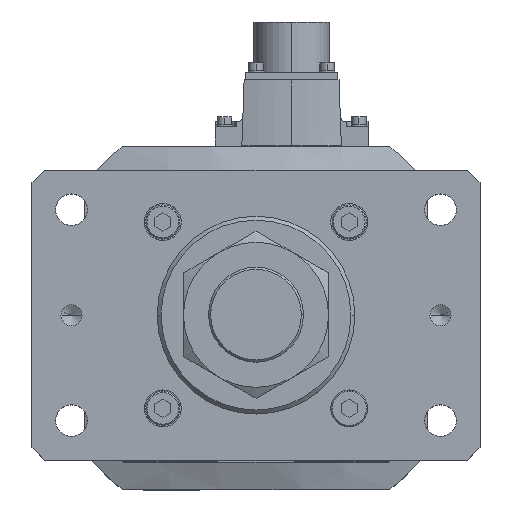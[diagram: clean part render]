
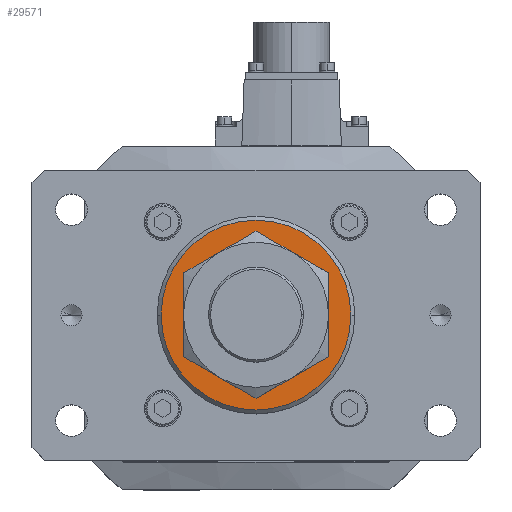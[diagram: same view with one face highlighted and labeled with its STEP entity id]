
A CAD part, top view. The second image highlights one B-rep face of the part: STEP entity #29571.
In plain terms, the highlighted planar face has unit normal (0, 0, 1).
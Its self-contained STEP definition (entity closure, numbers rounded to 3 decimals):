
#1606 = VERTEX_POINT ( 'NONE', #34522 ) ;
#2476 = DIRECTION ( 'NONE',  ( 1., 0., 0. ) ) ;
#5971 = VERTEX_POINT ( 'NONE', #35568 ) ;
#8126 = CIRCLE ( 'NONE', #27145, 23. ) ;
#8797 = CARTESIAN_POINT ( 'NONE',  ( 0., 0., 396. ) ) ;
#9628 = EDGE_CURVE ( 'NONE', #34081, #1606, #8126, .T. ) ;
#10141 = EDGE_CURVE ( 'NONE', #30867, #5971, #22022, .T. ) ;
#11124 = CARTESIAN_POINT ( 'NONE',  ( -23., 0., 396. ) ) ;
#12157 = EDGE_LOOP ( 'NONE', ( #25863, #16456 ) ) ;
#12438 = FACE_OUTER_BOUND ( 'NONE', #35081, .T. ) ;
#12920 = CARTESIAN_POINT ( 'NONE',  ( 0., 0., 396. ) ) ;
#13178 = CARTESIAN_POINT ( 'NONE',  ( 0., 0., 396. ) ) ;
#13797 = ORIENTED_EDGE ( 'NONE', *, *, #26783, .T. ) ;
#14011 = CIRCLE ( 'NONE', #19990, 23. ) ;
#16456 = ORIENTED_EDGE ( 'NONE', *, *, #9628, .T. ) ;
#16619 = DIRECTION ( 'NONE',  ( 0., 0., 1. ) ) ;
#17519 = EDGE_CURVE ( 'NONE', #1606, #34081, #14011, .T. ) ;
#18937 = DIRECTION ( 'NONE',  ( 1., 0., 0. ) ) ;
#19990 = AXIS2_PLACEMENT_3D ( 'NONE', #31112, #33555, #22509 ) ;
#20066 = FACE_BOUND ( 'NONE', #12157, .T. ) ;
#20428 = AXIS2_PLACEMENT_3D ( 'NONE', #12920, #35400, #24066 ) ;
#22022 = CIRCLE ( 'NONE', #31744, 36. ) ;
#22509 = DIRECTION ( 'NONE',  ( 1., 0., 0. ) ) ;
#24066 = DIRECTION ( 'NONE',  ( 1., 0., 0. ) ) ;
#25863 = ORIENTED_EDGE ( 'NONE', *, *, #17519, .T. ) ;
#25940 = DIRECTION ( 'NONE',  ( 1., 0., 0. ) ) ;
#26783 = EDGE_CURVE ( 'NONE', #5971, #30867, #31682, .T. ) ;
#27145 = AXIS2_PLACEMENT_3D ( 'NONE', #13178, #33127, #18937 ) ;
#27480 = CARTESIAN_POINT ( 'NONE',  ( -36., 0., 396. ) ) ;
#29571 = ADVANCED_FACE ( 'NONE', ( #20066, #12438 ), #31209, .T. ) ;
#30735 = CARTESIAN_POINT ( 'NONE',  ( 0., 0., 396. ) ) ;
#30867 = VERTEX_POINT ( 'NONE', #27480 ) ;
#31112 = CARTESIAN_POINT ( 'NONE',  ( 0., 0., 396. ) ) ;
#31209 = PLANE ( 'NONE',  #35060 ) ;
#31682 = CIRCLE ( 'NONE', #20428, 36. ) ;
#31744 = AXIS2_PLACEMENT_3D ( 'NONE', #30735, #16619, #2476 ) ;
#32327 = ORIENTED_EDGE ( 'NONE', *, *, #10141, .T. ) ;
#33127 = DIRECTION ( 'NONE',  ( 0., 0., -1. ) ) ;
#33555 = DIRECTION ( 'NONE',  ( 0., 0., -1. ) ) ;
#34029 = DIRECTION ( 'NONE',  ( 0., 0., 1. ) ) ;
#34081 = VERTEX_POINT ( 'NONE', #11124 ) ;
#34522 = CARTESIAN_POINT ( 'NONE',  ( 23., 0., 396. ) ) ;
#35060 = AXIS2_PLACEMENT_3D ( 'NONE', #8797, #34029, #25940 ) ;
#35081 = EDGE_LOOP ( 'NONE', ( #32327, #13797 ) ) ;
#35400 = DIRECTION ( 'NONE',  ( 0., 0., 1. ) ) ;
#35568 = CARTESIAN_POINT ( 'NONE',  ( 36., 0., 396. ) ) ;
